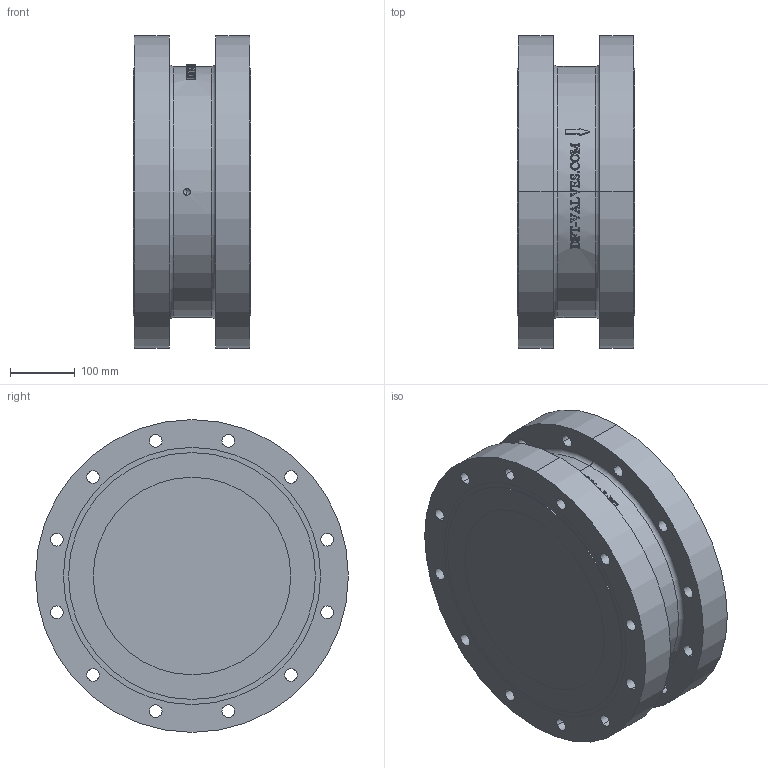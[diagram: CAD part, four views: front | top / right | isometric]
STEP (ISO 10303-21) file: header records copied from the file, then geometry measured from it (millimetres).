
FILE_DESCRIPTION (( 'STEP AP203' ), '1' );
FILE_NAME ('TLW 12_150.STEP', '2018-04-05T19:36:13', ( '' ), ( '' ), 'SwSTEP 2.0', 'SolidWorks 2017', '' );
FILE_SCHEMA (( 'CONFIG_CONTROL_DESIGN' ));
Length unit declared in the file: inch
Products named in the file (1): TLW 12_150
Bounding box: 180.91 x 482.6 x 482.6 mm (x, y, z)
Volume: 27873253.2 mm3; surface area: 808178.8 mm2
Topology: 1 solids, 1 shells, 382 faces, 1070 edges, 712 vertices
Faces by surface type: bspline 162, plane 135, cylinder 77, cone 4, torus 4
Entity records: 37863 total; most frequent: CARTESIAN_POINT 28723, ORIENTED_EDGE 2132, DIRECTION 1450, EDGE_CURVE 1066, VERTEX_POINT 712, AXIS2_PLACEMENT_3D 495, LINE 460, VECTOR 460
